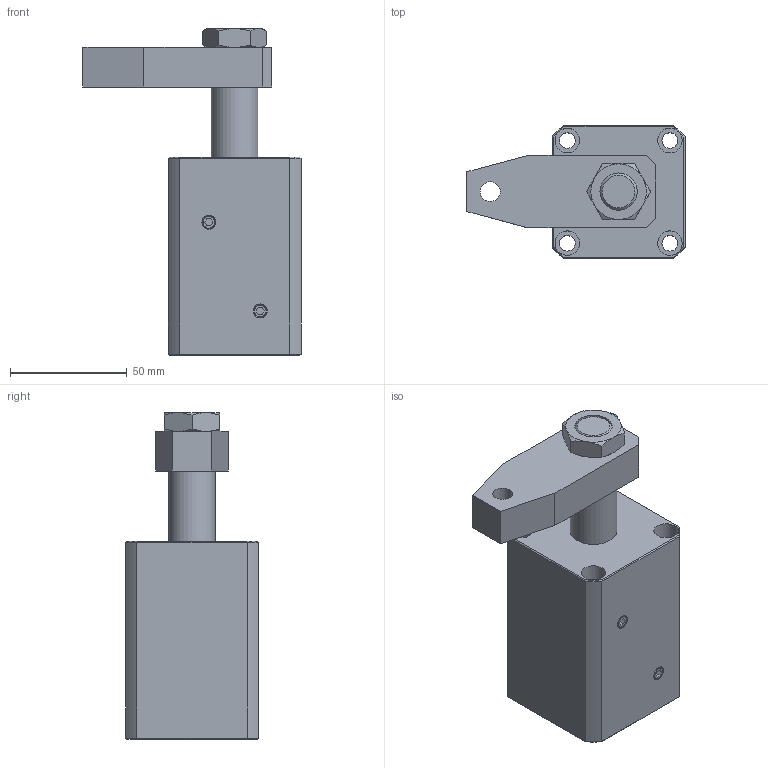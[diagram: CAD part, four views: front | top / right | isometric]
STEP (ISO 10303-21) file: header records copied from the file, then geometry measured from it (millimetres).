
FILE_DESCRIPTION(/* description */ ('Unknown'),/* implementation_level */ '2;1');
FILE_NAME(/* name */ 'HSC-M32S-A',/* time_stamp */ '2019-05-27T15:11:17+08:00',/* author */ ('Unknown'),/* organization */ ('Unknown'),/* preprocessor_version */ 'ST-DEVELOPER v16.7',/* originating_system */ 'DEX',/* authorisation */ $);
FILE_SCHEMA (('AUTOMOTIVE_DESIGN {1 0 10303 214 3 1 1}'));
Length unit declared in the file: millimetre
Products named in the file (4): HSC-M32S-A; HSC-M32S-CYLINDER; HSC-3202-S-AXLE CENTRE; HSC-32S-A
Assembly tree (3 placements, depth 2):
  HSC-M32S-A
    HSC-M32S-CYLINDER
    HSC-3202-S-AXLE CENTRE
    HSC-32S-A
Bounding box: 93.5 x 57 x 140 mm (x, y, z)
Volume: 286929.9 mm3; surface area: 57983.1 mm2
Topology: 3 solids, 3 shells, 126 faces, 271 edges, 171 vertices
Faces by surface type: plane 64, cone 33, cylinder 26, torus 3
Full cylindrical faces by diameter (mm): 4.1 x2, 5 x2, 6.8 x4, 8.5 x1, 10 x2, 10.5 x4, 16 x2, 17 x1, 20 x2, 32 x2
Entity records: 3572 total; most frequent: CARTESIAN_POINT 634, DIRECTION 530, ORIENTED_EDGE 440, EDGE_CURVE 220, AXIS2_PLACEMENT_3D 220, FACE_BOUND 198, EDGE_LOOP 196, VERTEX_POINT 160
